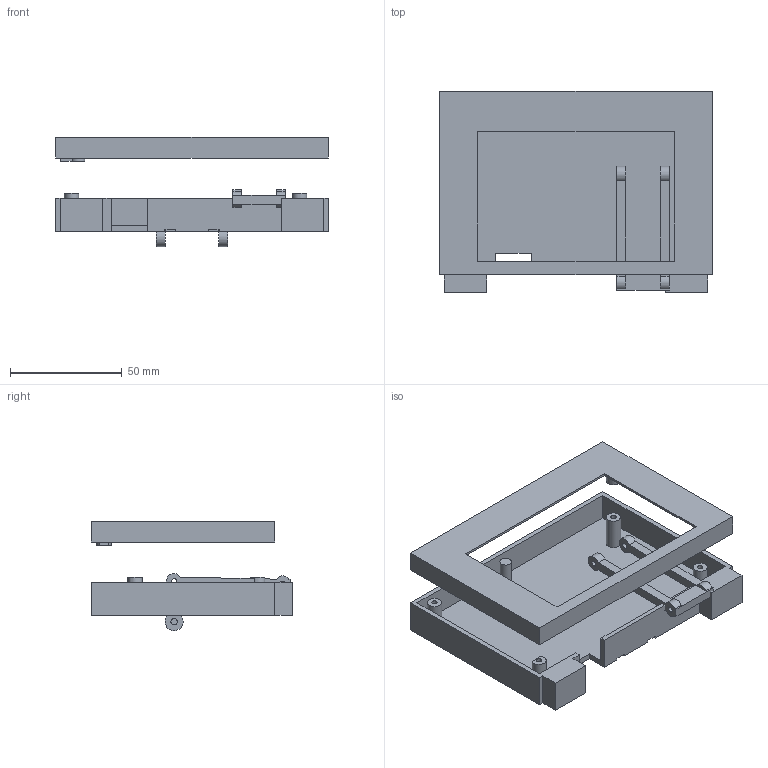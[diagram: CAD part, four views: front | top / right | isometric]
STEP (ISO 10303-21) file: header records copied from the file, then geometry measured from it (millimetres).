
FILE_DESCRIPTION(('Open CASCADE Model'),'2;1');
FILE_NAME('Open CASCADE Shape Model','2026-09-24T16:47:20',('Author'),( 'Open CASCADE'),'Open CASCADE STEP processor 8.0','Open CASCADE 8.0' ,'Unknown');
FILE_SCHEMA(('AP242_MANAGED_MODEL_BASED_3D_ENGINEERING_MIM_LF {1 0 10303 442 1 1 4 }' ));
Length unit declared in the file: millimetre
Products named in the file (3): Extended Front Cover with M2 Inserts; Single Rectangle Rear Shell; Adjustable Folding Kickstand
Bounding box: 122 x 90 x 48.89 mm (x, y, z)
Volume: 57002.8 mm3; surface area: 53765.1 mm2
Topology: 3 solids, 3 shells, 125 faces, 303 edges, 202 vertices
Faces by surface type: plane 91, cylinder 34
Full cylindrical faces by diameter (mm): 2.4 x7, 2.9 x6, 4.6 x4, 5.2 x1, 6.4 x7
Entity records: 7694 total; most frequent: CARTESIAN_POINT 1267, DIRECTION 1230, LINE 761, VECTOR 761, ORIENTED_EDGE 606, PCURVE 606, DEFINITIONAL_REPRESENTATION 606, EDGE_CURVE 303
